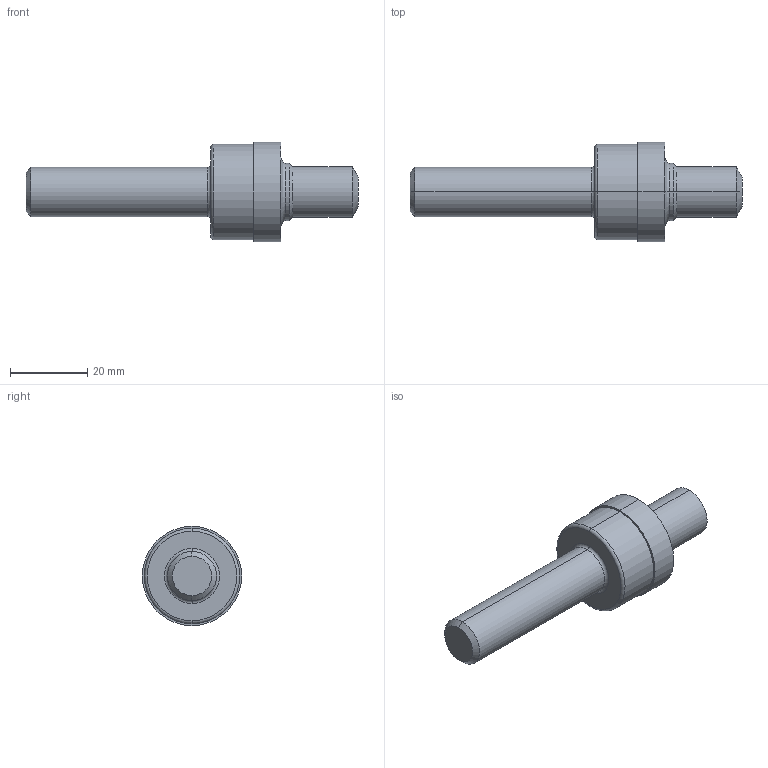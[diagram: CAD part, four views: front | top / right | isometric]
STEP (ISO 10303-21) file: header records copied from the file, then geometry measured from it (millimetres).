
FILE_DESCRIPTION (( 'STEP AP203' ), '1' );
FILE_NAME ('AS5202-06R.STEP', '2024-06-19T19:04:06', ( '' ), ( '' ), 'SwSTEP 2.0', 'SolidWorks 2022', '' );
FILE_SCHEMA (( 'CONFIG_CONTROL_DESIGN' ));
Length unit declared in the file: inch
Products named in the file (1): AS5202-06R
Bounding box: 85.85 x 25.7 x 25.7 mm (x, y, z)
Volume: 17645.4 mm3; surface area: 5025.8 mm2
Topology: 1 solids, 1 shells, 29 faces, 56 edges, 32 vertices
Faces by surface type: cylinder 10, cone 8, torus 6, plane 5
Entity records: 819 total; most frequent: DIRECTION 154, CARTESIAN_POINT 118, ORIENTED_EDGE 112, AXIS2_PLACEMENT_3D 68, EDGE_CURVE 56, CIRCLE 38, VERTEX_POINT 32, EDGE_LOOP 32
